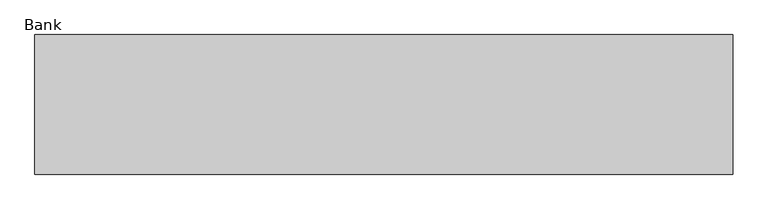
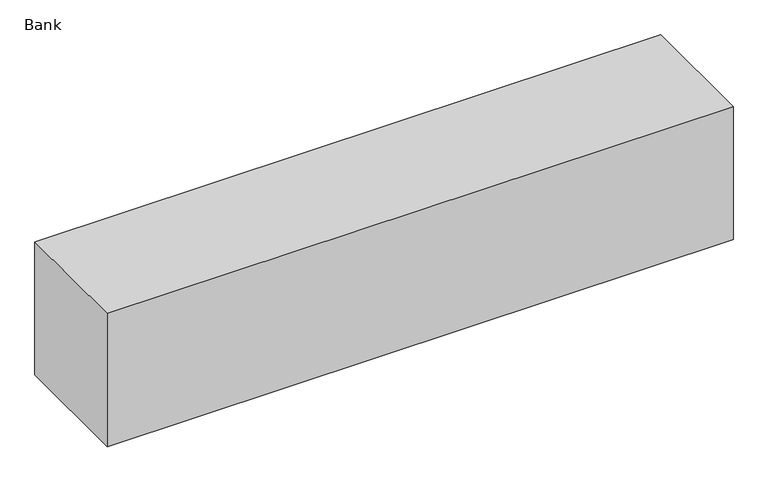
"""IFC4 building model written with IfcOpenShell, lengths in millimetres: furniture geometry, Mobile Ausstattung Bank : Bank."""

import ifcopenshell
import ifcopenshell.guid

model = None  # the IFC model being written
_history = None  # IfcOwnerHistory: only IFC2X3 demands one
_inside = {}  # id of a spatial element -> (the spatial element, [elements in it])
_under = {}  # id of a project, library or spatial element -> (it, [spatial elements below it])
_declared = {}  # id of a project -> (the project, [libraries it declares])
_typed = {}  # id of a type object -> (the type object, [elements of that type])
_made_of = {}  # id of a material, layer set ... -> (it, [elements and type objects made of it])


def new_model(schema):
    """Start an empty IFC model of exactly this schema.

    Asked for "IFC4X3", IfcOpenShell would pick the latest addendum, in which some entities
    have other attributes; the version numbers below select the first issue.
    IFC2X3 requires an IfcOwnerHistory on every rooted entity: one is made here for all.
    """
    global model, _history
    if schema == "IFC4X3":
        model = ifcopenshell.file(schema_version=(4, 3, 0, 0))
    else:
        model = ifcopenshell.file(schema=schema)
    _inside.clear()
    _under.clear()
    _declared.clear()
    _typed.clear()
    _made_of.clear()
    _history = None
    if model.schema == "IFC2X3":
        org = make("IfcOrganization", Name="unknown")
        user = make(
            "IfcPersonAndOrganization",
            ThePerson=make("IfcPerson", FamilyName="unknown"),
            TheOrganization=org,
        )
        app = make(
            "IfcApplication",
            ApplicationDeveloper=org,
            Version="unknown",
            ApplicationFullName="unknown",
            ApplicationIdentifier="unknown",
        )
        _history = make(
            "IfcOwnerHistory",
            OwningUser=user,
            OwningApplication=app,
            ChangeAction="ADDED",
            CreationDate=0,
        )
    return model


def make(cls, **values):
    """One entity of the class cls with the attributes given. An attribute that is None is left unset."""
    return model.create_entity(
        cls, **{name: value for name, value in values.items() if value is not None}
    )


def rooted(cls, **values):
    """An entity with a GlobalId (a new one), such as an element, a storey or a relation."""
    return make(cls, GlobalId=ifcopenshell.guid.new(), OwnerHistory=_history, **values)


def si_unit(unit_type, name, prefix=None):
    """IfcSIUnit, for example si_unit("LENGTHUNIT", "METRE", prefix="MILLI")."""
    return make("IfcSIUnit", UnitType=unit_type, Prefix=prefix, Name=name)


def assignment(units):
    """IfcUnitAssignment: the units of a project."""
    return None if units is None else make("IfcUnitAssignment", Units=units)


def point(xyz):
    """IfcCartesianPoint."""
    return None if xyz is None else make("IfcCartesianPoint", Coordinates=xyz)


def direction(xyz):
    """IfcDirection."""
    return None if xyz is None else make("IfcDirection", DirectionRatios=xyz)


def frame(location, z_axis=None, x_axis=None):
    """IfcAxis2Placement3D, a coordinate frame: its origin and axes. An axis left out is left unset."""
    return make(
        "IfcAxis2Placement3D",
        Location=point(location),
        Axis=direction(z_axis),
        RefDirection=direction(x_axis),
    )


def origin():
    """The frame at (0, 0, 0) with its axes left unset."""
    return frame((0.0, 0.0, 0.0))


def origin_with_axes():
    """The frame at (0, 0, 0) with the z axis (0, 0, 1) and the x axis (1, 0, 0) written out."""
    return frame((0.0, 0.0, 0.0), z_axis=(0.0, 0.0, 1.0), x_axis=(1.0, 0.0, 0.0))


def place(relative_to, where):
    """IfcLocalPlacement: puts the frame where relative to a parent placement (None: the world)."""
    return make(
        "IfcLocalPlacement", PlacementRelTo=relative_to, RelativePlacement=where
    )


def context(
    kind, dimensions, precision=None, world=None, true_north=None, identifier=None
):
    """IfcGeometricRepresentationContext, for example the 3D "Model" context."""
    return make(
        "IfcGeometricRepresentationContext",
        ContextIdentifier=identifier,
        ContextType=kind,
        CoordinateSpaceDimension=dimensions,
        Precision=precision,
        WorldCoordinateSystem=world,
        TrueNorth=true_north,
    )


def project(units=None, contexts=None):
    """IfcProject with its units and contexts."""
    return rooted(
        "IfcProject",
        Name="project",
        RepresentationContexts=contexts,
        UnitsInContext=assignment(units),
    )


def spatial(cls, under=None, at=None, **own):
    """A site, building, storey or space (cls), placed at a placement, below another one or the project."""
    s = rooted(cls, ObjectPlacement=at, **own)
    if under is not None:
        _under.setdefault(under.id(), (under, []))[1].append(s)
    return s


def polyline(points):
    """IfcPolyline through the points."""
    return make("IfcPolyline", Points=[point(p) for p in points])


def outline(outer, holes=None, kind="AREA"):
    """IfcArbitraryClosedProfileDef: a profile drawn as a closed curve; with holes, ...WithVoids."""
    if holes is None:
        return make("IfcArbitraryClosedProfileDef", ProfileType=kind, OuterCurve=outer)
    return make(
        "IfcArbitraryProfileDefWithVoids",
        ProfileType=kind,
        OuterCurve=outer,
        InnerCurves=holes,
    )


def extrude(swept, where, along, depth):
    """IfcExtrudedAreaSolid: the profile swept, set in the frame where, extruded along a direction by depth."""
    return make(
        "IfcExtrudedAreaSolid",
        SweptArea=swept,
        Position=where,
        ExtrudedDirection=direction(along),
        Depth=depth,
    )


def shape(context_of_items, identifier, shape_type, items):
    """IfcShapeRepresentation: the items that make up one representation, for example the "Body"."""
    return make(
        "IfcShapeRepresentation",
        ContextOfItems=context_of_items,
        RepresentationIdentifier=identifier,
        RepresentationType=shape_type,
        Items=items,
    )


def source(mapping_origin, context_of_items, identifier, shape_type, items):
    """IfcRepresentationMap: a shape defined once, which mapped items show again and again."""
    return make(
        "IfcRepresentationMap",
        MappingOrigin=mapping_origin,
        MappedRepresentation=shape(context_of_items, identifier, shape_type, items),
    )


def transform(
    local_origin,
    x_axis=None,
    y_axis=None,
    z_axis=None,
    scale=None,
    scale2=None,
    scale3=None,
    uniform=True,
):
    """IfcCartesianTransformationOperator3D, or its non-uniform kind. x_axis, y_axis, z_axis: its Axis1, 2, 3."""
    if uniform:
        return make(
            "IfcCartesianTransformationOperator3D",
            Axis1=direction(x_axis),
            Axis2=direction(y_axis),
            LocalOrigin=point(local_origin),
            Scale=scale,
            Axis3=direction(z_axis),
        )
    return make(
        "IfcCartesianTransformationOperator3DnonUniform",
        Axis1=direction(x_axis),
        Axis2=direction(y_axis),
        LocalOrigin=point(local_origin),
        Scale=scale,
        Axis3=direction(z_axis),
        Scale2=scale2,
        Scale3=scale3,
    )


def mapped(mapping_source, mapping_target):
    """IfcMappedItem: shows the shape of a source again, moved by a transform."""
    return make(
        "IfcMappedItem", MappingSource=mapping_source, MappingTarget=mapping_target
    )


def made_of(thing, what):
    """Note that an element or type object is made of a material, layer set ...; save() writes the relation."""
    if what is not None:
        _made_of.setdefault(what.id(), (what, []))[1].append(thing)
    return thing


def element(
    cls,
    number,
    at=None,
    inside=None,
    cuts=None,
    type_object=None,
    material=None,
    context=None,
    identifier="Body",
    shape_type=None,
    held_by="IfcProductDefinitionShape",
    body=None,
    shapes=None,
    **own,
):
    """One element of the class cls, such as IfcWall. Its Tag is "e" and its number.

    at: its placement. inside: the storey or other place that contains it. cuts: it is an
    opening in that element (IfcRelVoidsElement). A single representation is given by context,
    identifier, shape_type and body (its items); several are given by shapes. held_by: the class
    of the entity that holds the representations. save() writes the other relations.
    """
    e = rooted(cls, Tag="e%d" % number, ObjectPlacement=at, **own)
    if body is not None:
        shapes = [shape(context, identifier, shape_type, body)]
    if shapes is not None:
        e.Representation = make(held_by, Representations=shapes)
    if inside is not None:
        _inside.setdefault(inside.id(), (inside, []))[1].append(e)
    if cuts is not None:
        rooted(
            "IfcRelVoidsElement", RelatingBuildingElement=cuts, RelatedOpeningElement=e
        )
    if type_object is not None:
        _typed.setdefault(type_object.id(), (type_object, []))[1].append(e)
    return made_of(e, material)


def aggregate(whole, parts):
    """IfcRelAggregates: a whole, such as a stair, and the parts it consists of."""
    return rooted("IfcRelAggregates", RelatingObject=whole, RelatedObjects=parts)


def save(model, path):
    """Write the relations noted so far, then the file.

    IfcRelAggregates (storeys below a building ...), IfcRelContainedInSpatialStructure (elements
    in a storey), IfcRelDefinesByType, IfcRelAssociatesMaterial and IfcRelDeclares: one each for
    every whole, place, type object, material and project.
    """
    for whole, parts in _under.values():
        aggregate(whole, parts)
    for where, things in _inside.values():
        rooted(
            "IfcRelContainedInSpatialStructure",
            RelatedElements=things,
            RelatingStructure=where,
        )
    for kind, things in _typed.values():
        rooted("IfcRelDefinesByType", RelatedObjects=things, RelatingType=kind)
    for what, things in _made_of.values():
        rooted("IfcRelAssociatesMaterial", RelatedObjects=things, RelatingMaterial=what)
    for by, libraries in _declared.values():
        rooted("IfcRelDeclares", RelatingContext=by, RelatedDefinitions=libraries)
    model.write(path)


def bank_5bc5535e(model_context):
    return source(origin(), model_context, "Body", "SweptSolid", [
        extrude(outline(polyline([(1000.0, -200.0), (-1000.0, -200.0), (-1000.0, 200.0), (1000.0, 200.0), (1000.0, -200.0)])), origin_with_axes(), (0.0, 0.0, 1.0), 450.0),
    ])


if __name__ == "__main__":
    model = new_model("IFC4")
    model_context = context("Model", 3, world=origin())
    ifc_project = project(units=[si_unit("LENGTHUNIT", "METRE", prefix="MILLI")], contexts=[model_context])
    site = spatial("IfcSite", under=ifc_project)
    building = spatial("IfcBuilding", under=site)
    placement = place(None, origin())
    bank_shape = bank_5bc5535e(model_context)
    element("IfcFurniture", 1, ObjectType="Mobile Ausstattung Bank : Bank", at=placement, inside=building, context=model_context, shape_type="MappedRepresentation", body=[
        mapped(bank_shape, transform((0.0, 0.0, 0.0), x_axis=(1.0, 0.0, 0.0), y_axis=(0.0, 1.0, 0.0), z_axis=(0.0, 0.0, 1.0))),
    ])
    save(model, "model.ifc")
